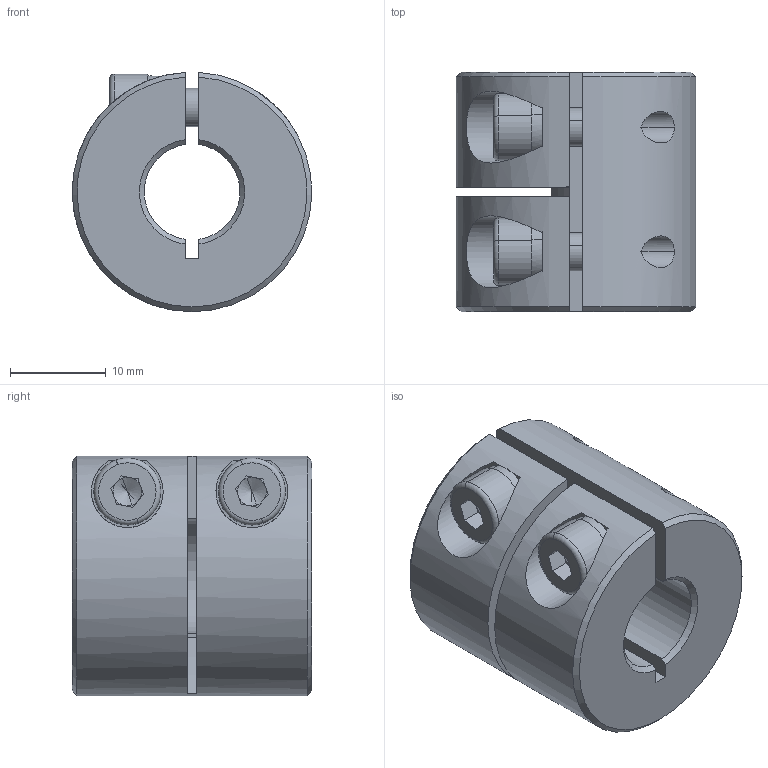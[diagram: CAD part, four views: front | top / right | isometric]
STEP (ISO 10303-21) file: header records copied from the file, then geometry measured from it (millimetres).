
FILE_DESCRIPTION (( 'STEP AP203' ), '1' );
FILE_NAME ('LL-B-D25L25-10-12.STEP', '2021-11-05T06:39:43', ( '' ), ( '' ), 'SwSTEP 2.0', 'SolidWorks 2018', '' );
FILE_SCHEMA (( 'CONFIG_CONTROL_DESIGN' ));
Length unit declared in the file: millimetre
Products named in the file (1): LL-B-D25L25-10-12
Bounding box: 24.99 x 25 x 24.98 mm (x, y, z)
Volume: 9203 mm3; surface area: 4913.6 mm2
Topology: 1 solids, 1 shells, 104 faces, 270 edges, 170 vertices
Faces by surface type: plane 52, cylinder 37, cone 11, torus 4
Entity records: 3471 total; most frequent: CARTESIAN_POINT 815, DIRECTION 560, ORIENTED_EDGE 532, EDGE_CURVE 266, AXIS2_PLACEMENT_3D 215, VERTEX_POINT 170, VECTOR 130, LINE 130
